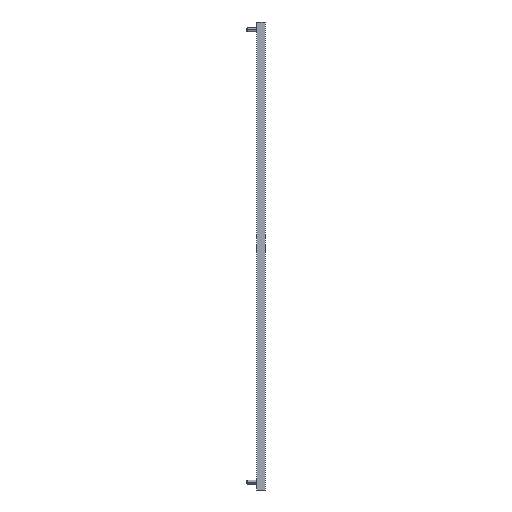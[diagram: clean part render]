
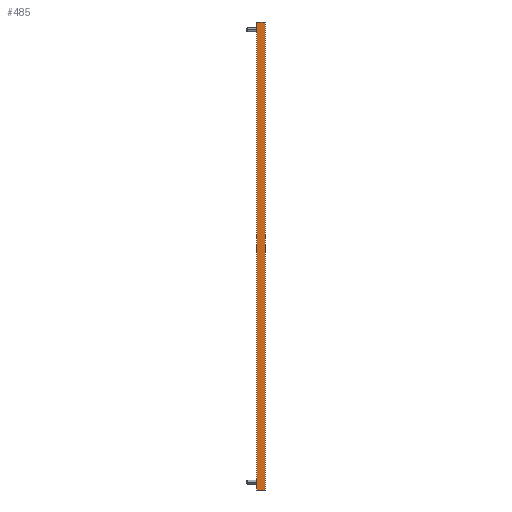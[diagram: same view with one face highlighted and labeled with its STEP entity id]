
A CAD part, left-side view. The second image highlights one B-rep face of the part: STEP entity #485.
In plain terms, the highlighted planar face has unit normal (-1, 0, 0).
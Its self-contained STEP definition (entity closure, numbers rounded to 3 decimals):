
#5 = CARTESIAN_POINT ( 'NONE',  ( -8., 12.5, 679. ) ) ;
#29 = ORIENTED_EDGE ( 'NONE', *, *, #3156, .F. ) ;
#115 = LINE ( 'NONE', #2094, #3027 ) ;
#136 = VECTOR ( 'NONE', #1705, 1000. ) ;
#192 = VECTOR ( 'NONE', #1157, 1000. ) ;
#354 = LINE ( 'NONE', #2115, #615 ) ;
#385 = EDGE_CURVE ( 'NONE', #943, #1719, #115, .T. ) ;
#425 = CARTESIAN_POINT ( 'NONE',  ( -8., 0., 0. ) ) ;
#485 = ADVANCED_FACE ( 'NONE', ( #2944 ), #922, .T. ) ;
#553 = VECTOR ( 'NONE', #2266, 1000. ) ;
#595 = EDGE_CURVE ( 'NONE', #1719, #3164, #1271, .T. ) ;
#615 = VECTOR ( 'NONE', #1344, 1000. ) ;
#665 = DIRECTION ( 'NONE',  ( 0., -1., 0. ) ) ;
#779 = EDGE_CURVE ( 'NONE', #3031, #1259, #2865, .T. ) ;
#906 = DIRECTION ( 'NONE',  ( 0., 1., 0. ) ) ;
#922 = PLANE ( 'NONE',  #1744 ) ;
#943 = VERTEX_POINT ( 'NONE', #2857 ) ;
#996 = ORIENTED_EDGE ( 'NONE', *, *, #1356, .T. ) ;
#1157 = DIRECTION ( 'NONE',  ( 0., 1., 0. ) ) ;
#1162 = ORIENTED_EDGE ( 'NONE', *, *, #595, .T. ) ;
#1192 = VECTOR ( 'NONE', #1704, 1000. ) ;
#1206 = CARTESIAN_POINT ( 'NONE',  ( -8., 12.5, 679. ) ) ;
#1207 = CARTESIAN_POINT ( 'NONE',  ( -8., 3.2, 0. ) ) ;
#1259 = VERTEX_POINT ( 'NONE', #3199 ) ;
#1271 = LINE ( 'NONE', #2044, #553 ) ;
#1330 = ORIENTED_EDGE ( 'NONE', *, *, #1901, .F. ) ;
#1344 = DIRECTION ( 'NONE',  ( 0., 0., 1. ) ) ;
#1356 = EDGE_CURVE ( 'NONE', #2104, #2277, #354, .T. ) ;
#1387 = CARTESIAN_POINT ( 'NONE',  ( -8., 0., 0. ) ) ;
#1417 = LINE ( 'NONE', #1448, #136 ) ;
#1448 = CARTESIAN_POINT ( 'NONE',  ( -8., 12.5, 679. ) ) ;
#1600 = VERTEX_POINT ( 'NONE', #5 ) ;
#1704 = DIRECTION ( 'NONE',  ( 0., -1., 0. ) ) ;
#1705 = DIRECTION ( 'NONE',  ( 0., 0., 1. ) ) ;
#1719 = VERTEX_POINT ( 'NONE', #3107 ) ;
#1744 = AXIS2_PLACEMENT_3D ( 'NONE', #3244, #2195, #1961 ) ;
#1825 = CARTESIAN_POINT ( 'NONE',  ( -8., 0., 679. ) ) ;
#1832 = CARTESIAN_POINT ( 'NONE',  ( -8., 3.2, 679. ) ) ;
#1863 = VECTOR ( 'NONE', #3128, 1000. ) ;
#1901 = EDGE_CURVE ( 'NONE', #1600, #1259, #3003, .T. ) ;
#1961 = DIRECTION ( 'NONE',  ( 0., 0., 1. ) ) ;
#2044 = CARTESIAN_POINT ( 'NONE',  ( -8., 0., 0. ) ) ;
#2075 = EDGE_CURVE ( 'NONE', #3164, #2104, #2357, .T. ) ;
#2094 = CARTESIAN_POINT ( 'NONE',  ( -8., 0., 0. ) ) ;
#2104 = VERTEX_POINT ( 'NONE', #425 ) ;
#2115 = CARTESIAN_POINT ( 'NONE',  ( -8., 0., 679. ) ) ;
#2172 = VECTOR ( 'NONE', #906, 1000. ) ;
#2195 = DIRECTION ( 'NONE',  ( -1., 0., 0. ) ) ;
#2197 = ORIENTED_EDGE ( 'NONE', *, *, #3182, .T. ) ;
#2266 = DIRECTION ( 'NONE',  ( 0., -1., 0. ) ) ;
#2277 = VERTEX_POINT ( 'NONE', #2471 ) ;
#2330 = ORIENTED_EDGE ( 'NONE', *, *, #385, .T. ) ;
#2357 = LINE ( 'NONE', #1387, #1863 ) ;
#2360 = EDGE_LOOP ( 'NONE', ( #29, #2330, #1162, #3174, #996, #2197, #3241, #1330 ) ) ;
#2471 = CARTESIAN_POINT ( 'NONE',  ( -8., 0., 679. ) ) ;
#2716 = LINE ( 'NONE', #3202, #2172 ) ;
#2857 = CARTESIAN_POINT ( 'NONE',  ( -8., 12.5, 0. ) ) ;
#2865 = LINE ( 'NONE', #1825, #192 ) ;
#2944 = FACE_OUTER_BOUND ( 'NONE', #2360, .T. ) ;
#3003 = LINE ( 'NONE', #1206, #1192 ) ;
#3027 = VECTOR ( 'NONE', #665, 1000. ) ;
#3031 = VERTEX_POINT ( 'NONE', #1832 ) ;
#3107 = CARTESIAN_POINT ( 'NONE',  ( -8., 9.3, 0. ) ) ;
#3128 = DIRECTION ( 'NONE',  ( 0., -1., 0. ) ) ;
#3156 = EDGE_CURVE ( 'NONE', #943, #1600, #1417, .T. ) ;
#3164 = VERTEX_POINT ( 'NONE', #1207 ) ;
#3174 = ORIENTED_EDGE ( 'NONE', *, *, #2075, .T. ) ;
#3182 = EDGE_CURVE ( 'NONE', #2277, #3031, #2716, .T. ) ;
#3199 = CARTESIAN_POINT ( 'NONE',  ( -8., 9.3, 679. ) ) ;
#3202 = CARTESIAN_POINT ( 'NONE',  ( -8., 0., 679. ) ) ;
#3241 = ORIENTED_EDGE ( 'NONE', *, *, #779, .T. ) ;
#3244 = CARTESIAN_POINT ( 'NONE',  ( -8., 0., 679. ) ) ;
